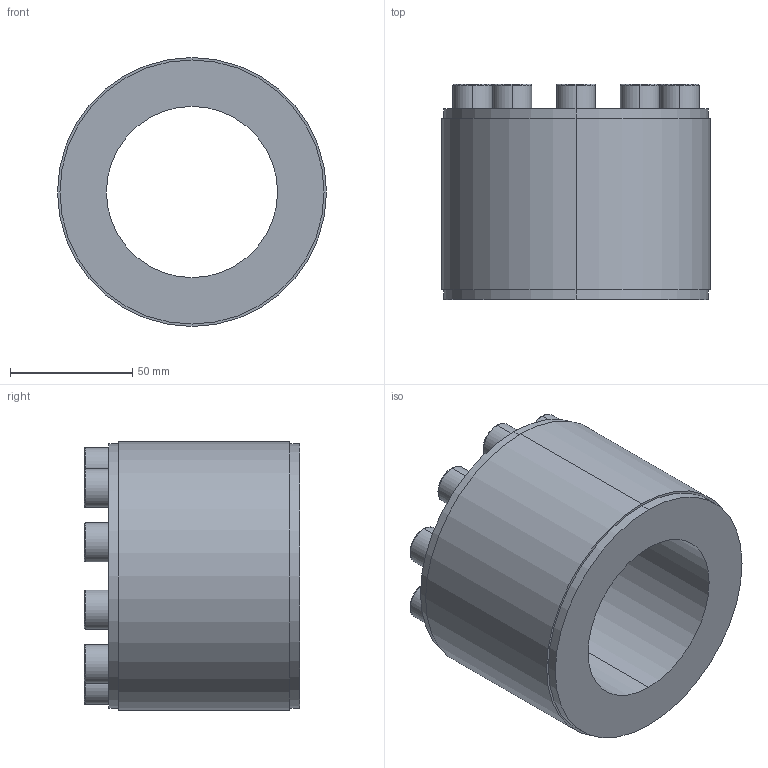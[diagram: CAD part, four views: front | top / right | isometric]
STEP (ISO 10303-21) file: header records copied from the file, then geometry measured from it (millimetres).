
FILE_DESCRIPTION (( 'STEP AP203' ), '1' );
FILE_NAME ('PL-D1 70-110.STEP', '2021-10-23T00:16:11', ( '' ), ( '' ), 'SwSTEP 2.0', 'SolidWorks 2018', '' );
FILE_SCHEMA (( 'CONFIG_CONTROL_DESIGN' ));
Length unit declared in the file: millimetre
Products named in the file (1): PL-D1 70-110
Bounding box: 110 x 88 x 110 mm (x, y, z)
Volume: 455648.5 mm3; surface area: 61670.6 mm2
Topology: 1 solids, 1 shells, 132 faces, 304 edges, 196 vertices
Faces by surface type: plane 84, cylinder 28, torus 20
Entity records: 3805 total; most frequent: DIRECTION 666, CARTESIAN_POINT 633, ORIENTED_EDGE 608, EDGE_CURVE 304, AXIS2_PLACEMENT_3D 229, LINE 208, VECTOR 208, VERTEX_POINT 196
